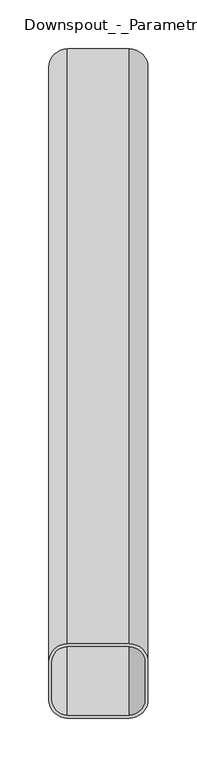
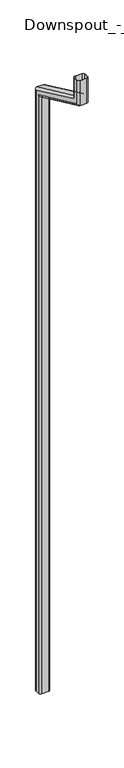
"""IFC4 building model written with IfcOpenShell, lengths in millimetres: proxy geometry, Downspout_-_Parametric_5251 : 20'."""

from ifc_helpers import new_model, si_unit, frame, origin, origin_with_axes, place, context, project, spatial, polyline, circle_curve, ellipse_curve, source, transform, mapped, element, save
from ifc_brep_helpers import plane_surface, cylinder_surface, revolved_surface, advanced_brep


def downspout_parametric_5251_20_f7a235c1(model_context):
    return source(origin(), model_context, "Body", "AdvancedBrep", [
        advanced_brep(
        [(50.8, 19.05, 0.0), (31.75, 38.1, 0.0), (-31.75, 38.1, 0.0), (-50.8, 19.05, 0.0), (-50.8, -19.05, 0.0), (-31.75, -38.1, 0.0), (31.75, -38.1, 0.0), (50.8, -19.05, 0.0), (47.625, 19.05, 0.0), (47.625, -19.05, 0.0), (31.75, -34.925, 0.0), (-31.75, -34.925, 0.0), (-47.625, -19.05, 0.0), (-47.625, 19.05, 0.0), (-31.75, 34.925, 0.0), (31.75, 34.925, 0.0), (50.8, 19.05, -203.7391312), (31.75, 38.1, -191.6029427), (-31.75, 38.1, -191.6029427), (-50.8, 19.05, -203.7391312), (-50.8, 628.65, -488.0002796), (-50.8, 628.65, -6318.25), (-50.8, 590.55, -6318.25), (-50.8, 590.55, -512.2726565), (-50.8, -19.05, -228.0115081), (-31.75, -38.1, -240.1476966), (31.75, -38.1, -240.1476966), (50.8, -19.05, -228.0115081), (50.8, 590.55, -512.2726565), (50.8, 590.55, -6318.25), (50.8, 628.65, -6318.25), (50.8, 628.65, -488.0002796), (47.625, 19.05, -203.7391312), (47.625, 628.65, -488.0002796), (47.625, 628.65, -6318.25), (47.625, 590.55, -6318.25), (47.625, 590.55, -512.2726565), (47.625, -19.05, -228.0115081), (31.75, -34.925, -238.1249985), (-31.75, -34.925, -238.1249985), (-47.625, -19.05, -228.0115081), (-47.625, 590.55, -512.2726565), (-47.625, 590.55, -6318.25), (-47.625, 628.65, -6318.25), (-47.625, 628.65, -488.0002796), (-47.625, 19.05, -203.7391312), (-31.75, 34.925, -193.6256408), (31.75, 34.925, -193.6256408), (31.75, 647.7, -475.8640911), (-31.75, 647.7, -475.8640911), (-31.75, 571.5, -524.408845), (31.75, 571.5, -524.408845), (31.75, 574.675, -522.3861469), (-31.75, 574.675, -522.3861469), (-31.75, 644.525, -477.8867892), (31.75, 644.525, -477.8867892), (31.75, 571.5, -6318.25), (-31.75, 571.5, -6318.25), (-31.75, 647.7, -6318.25), (31.75, 647.7, -6318.25), (31.75, 644.525, -6318.25), (-31.75, 644.525, -6318.25), (-31.75, 574.675, -6318.25), (31.75, 574.675, -6318.25)],
        [
            (0, 1, circle_curve(frame((31.75, 19.05, 0.0), z_axis=(0.0, 0.0, 1.0), x_axis=(0.0, 1.0, 0.0)), 19.05)),
            (1, 2),
            (2, 3, circle_curve(frame((-31.75, 19.05, 0.0), z_axis=(0.0, 0.0, 1.0), x_axis=(0.0, 1.0, 0.0)), 19.05)),
            (3, 4),
            (4, 5, circle_curve(frame((-31.75, -19.05, 0.0), z_axis=(0.0, 0.0, 1.0), x_axis=(0.0, 1.0, 0.0)), 19.05)),
            (5, 6),
            (6, 7, circle_curve(frame((31.75, -19.05, 0.0), z_axis=(0.0, 0.0, 1.0), x_axis=(0.0, 1.0, 0.0)), 19.05)),
            (7, 0),
            (8, 9),
            (9, 10, circle_curve(frame((31.75, -19.05, 0.0), z_axis=(0.0, 0.0, -1.0), x_axis=(0.0, 1.0, 0.0)), 15.875)),
            (10, 11),
            (11, 12, circle_curve(frame((-31.75, -19.05, 0.0), z_axis=(0.0, 0.0, -1.0), x_axis=(0.0, 1.0, 0.0)), 15.875)),
            (12, 13),
            (13, 14, circle_curve(frame((-31.75, 19.05, 0.0), z_axis=(0.0, 0.0, -1.0), x_axis=(0.0, 1.0, 0.0)), 15.875)),
            (14, 15),
            (15, 8, circle_curve(frame((31.75, 19.05, 0.0), z_axis=(0.0, 0.0, -1.0), x_axis=(0.0, 1.0, 0.0)), 15.875)),
            (0, 16),
            (16, 17, ellipse_curve(frame((31.75, 19.05, -203.7391312), z_axis=(0.0, -0.5372996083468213, 0.8433914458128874), x_axis=(0.0, 0.8433914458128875, 0.5372996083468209)), 22.5873764, 19.05)),
            (17, 1),
            (17, 18),
            (18, 2),
            (18, 19, ellipse_curve(frame((-31.75, 19.05, -203.7391312), z_axis=(0.0, -0.5372996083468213, 0.8433914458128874), x_axis=(0.0, 0.8433914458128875, 0.5372996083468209)), 22.5873764, 19.05)),
            (19, 3),
            (19, 20),
            (20, 21),
            (21, 22),
            (22, 23),
            (23, 24),
            (24, 4),
            (24, 25, ellipse_curve(frame((-31.75, -19.05, -228.0115081), z_axis=(0.0, -0.5372996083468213, 0.8433914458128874), x_axis=(0.0, 0.8433914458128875, 0.5372996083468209)), 22.5873764, 19.05)),
            (25, 5),
            (25, 26),
            (26, 6),
            (26, 27, ellipse_curve(frame((31.75, -19.05, -228.0115081), z_axis=(0.0, -0.5372996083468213, 0.8433914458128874), x_axis=(0.0, 0.8433914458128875, 0.5372996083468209)), 22.5873764, 19.05)),
            (27, 7),
            (27, 28),
            (28, 29),
            (29, 30),
            (30, 31),
            (31, 16),
            (8, 32),
            (32, 33),
            (33, 34),
            (34, 35),
            (35, 36),
            (36, 37),
            (37, 9),
            (37, 38, ellipse_curve(frame((31.75, -19.05, -228.0115081), z_axis=(0.0, 0.5372996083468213, -0.8433914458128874), x_axis=(0.0, -0.8433914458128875, -0.5372996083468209)), 18.8228136, 15.875)),
            (38, 10),
            (38, 39),
            (39, 11),
            (39, 40, ellipse_curve(frame((-31.75, -19.05, -228.0115081), z_axis=(0.0, 0.5372996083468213, -0.8433914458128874), x_axis=(0.0, -0.8433914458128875, -0.5372996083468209)), 18.8228136, 15.875)),
            (40, 12),
            (40, 41),
            (41, 42),
            (42, 43),
            (43, 44),
            (44, 45),
            (45, 13),
            (45, 46, ellipse_curve(frame((-31.75, 19.05, -203.7391312), z_axis=(0.0, 0.5372996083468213, -0.8433914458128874), x_axis=(0.0, -0.8433914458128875, -0.5372996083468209)), 18.8228136, 15.875)),
            (46, 14),
            (46, 47),
            (47, 15),
            (47, 32, ellipse_curve(frame((31.75, 19.05, -203.7391312), z_axis=(0.0, 0.5372996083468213, -0.8433914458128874), x_axis=(0.0, -0.8433914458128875, -0.5372996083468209)), 18.8228136, 15.875)),
            (31, 48, ellipse_curve(frame((31.75, 628.65, -488.0002796), z_axis=(0.0, -0.5372996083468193, 0.8433914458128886), x_axis=(0.0, -0.8433914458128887, -0.5372996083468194)), 22.5873764, 19.05)),
            (48, 17),
            (48, 49),
            (49, 18),
            (49, 20, ellipse_curve(frame((-31.75, 628.65, -488.0002796), z_axis=(0.0, -0.5372996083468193, 0.8433914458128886), x_axis=(0.0, -0.8433914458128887, -0.5372996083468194)), 22.5873764, 19.05)),
            (23, 50, ellipse_curve(frame((-31.75, 590.55, -512.2726565), z_axis=(0.0, -0.5372996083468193, 0.8433914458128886), x_axis=(0.0, -0.8433914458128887, -0.5372996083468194)), 22.5873764, 19.05)),
            (50, 25),
            (50, 51),
            (51, 26),
            (51, 28, ellipse_curve(frame((31.75, 590.55, -512.2726565), z_axis=(0.0, -0.5372996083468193, 0.8433914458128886), x_axis=(0.0, -0.8433914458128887, -0.5372996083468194)), 22.5873764, 19.05)),
            (36, 52, ellipse_curve(frame((31.75, 590.55, -512.2726565), z_axis=(0.0, 0.5372996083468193, -0.8433914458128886), x_axis=(0.0, 0.8433914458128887, 0.5372996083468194)), 18.8228136, 15.875)),
            (52, 38),
            (52, 53),
            (53, 39),
            (53, 41, ellipse_curve(frame((-31.75, 590.55, -512.2726565), z_axis=(0.0, 0.5372996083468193, -0.8433914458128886), x_axis=(0.0, 0.8433914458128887, 0.5372996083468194)), 18.8228136, 15.875)),
            (44, 54, ellipse_curve(frame((-31.75, 628.65, -488.0002796), z_axis=(0.0, 0.5372996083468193, -0.8433914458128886), x_axis=(0.0, 0.8433914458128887, 0.5372996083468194)), 18.8228136, 15.875)),
            (54, 46),
            (54, 55),
            (55, 47),
            (55, 33, ellipse_curve(frame((31.75, 628.65, -488.0002796), z_axis=(0.0, 0.5372996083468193, -0.8433914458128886), x_axis=(0.0, 0.8433914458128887, 0.5372996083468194)), 18.8228136, 15.875)),
            (29, 56, circle_curve(frame((31.75, 590.55, -6318.25), z_axis=(0.0, 0.0, -1.0), x_axis=(0.0, 1.0, 0.0)), 19.05)),
            (56, 57),
            (57, 22, circle_curve(frame((-31.75, 590.55, -6318.25), z_axis=(0.0, 0.0, -1.0), x_axis=(0.0, 1.0, 0.0)), 19.05)),
            (21, 58, circle_curve(frame((-31.75, 628.65, -6318.25), z_axis=(0.0, 0.0, -1.0), x_axis=(0.0, 1.0, 0.0)), 19.05)),
            (58, 59),
            (59, 30, circle_curve(frame((31.75, 628.65, -6318.25), z_axis=(0.0, 0.0, -1.0), x_axis=(0.0, 1.0, 0.0)), 19.05)),
            (34, 60, circle_curve(frame((31.75, 628.65, -6318.25), z_axis=(0.0, 0.0, 1.0), x_axis=(0.0, 1.0, 0.0)), 15.875)),
            (60, 61),
            (61, 43, circle_curve(frame((-31.75, 628.65, -6318.25), z_axis=(0.0, 0.0, 1.0), x_axis=(0.0, 1.0, 0.0)), 15.875)),
            (42, 62, circle_curve(frame((-31.75, 590.55, -6318.25), z_axis=(0.0, 0.0, 1.0), x_axis=(0.0, 1.0, 0.0)), 15.875)),
            (62, 63),
            (63, 35, circle_curve(frame((31.75, 590.55, -6318.25), z_axis=(0.0, 0.0, 1.0), x_axis=(0.0, 1.0, 0.0)), 15.875)),
            (59, 48),
            (58, 49),
            (57, 50),
            (56, 51),
            (63, 52),
            (62, 53),
            (61, 54),
            (60, 55),
        ],
        [
            plane_surface(origin_with_axes()),
            cylinder_surface(frame((31.75, 19.05, 0.0), z_axis=(0.0, 0.0, 1.0), x_axis=(0.0, 1.0, 0.0)), 19.05),
            plane_surface(frame((31.75, 38.1, 0.0), z_axis=(0.0, 1.0, 0.0), x_axis=(0.0, 0.0, -1.0))),
            cylinder_surface(frame((-31.75, 19.05, 0.0), z_axis=(0.0, 0.0, 1.0), x_axis=(0.0, 1.0, 0.0)), 19.05),
            plane_surface(frame((-50.8, 19.05, 0.0), z_axis=(-1.0, 0.0, 0.0), x_axis=(0.0, 0.0, -1.0))),
            cylinder_surface(frame((-31.75, -19.05, 0.0), z_axis=(0.0, 0.0, 1.0), x_axis=(0.0, 1.0, 0.0)), 19.05),
            plane_surface(frame((-31.75, -38.1, 0.0), z_axis=(0.0, -1.0, 0.0), x_axis=(0.0, 0.0, -1.0))),
            cylinder_surface(frame((31.75, -19.05, 0.0), z_axis=(0.0, 0.0, 1.0), x_axis=(0.0, 1.0, 0.0)), 19.05),
            plane_surface(frame((50.8, -19.05, 0.0), z_axis=(1.0, 0.0, 0.0), x_axis=(0.0, 0.0, -1.0))),
            plane_surface(frame((47.625, 19.05, 0.0), z_axis=(-1.0, 0.0, 0.0), x_axis=(0.0, 0.0, -1.0))),
            revolved_surface(polyline([(31.75, -3.1750000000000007, -238.1249985), (31.75, -3.1750000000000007, 0.0)]), (31.75, -19.05, 0.0), (0.0, 0.0, -1.0)),
            plane_surface(frame((31.75, -34.925, 0.0), z_axis=(0.0, 1.0, 0.0), x_axis=(0.0, 0.0, -1.0))),
            revolved_surface(polyline([(-31.75, -3.1750000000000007, -238.1249985), (-31.75, -3.1750000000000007, 0.0)]), (-31.75, -19.05, 0.0), (0.0, 0.0, -1.0)),
            plane_surface(frame((-47.625, -19.05, 0.0), z_axis=(1.0, 0.0, 0.0), x_axis=(0.0, 0.0, -1.0))),
            revolved_surface(polyline([(-31.75, 34.925, -213.8526215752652), (-31.75, 34.925, 0.0)]), (-31.75, 19.05, 0.0), (0.0, 0.0, -1.0)),
            plane_surface(frame((-31.75, 34.925, 0.0), z_axis=(0.0, -1.0, 0.0), x_axis=(0.0, 0.0, -1.0))),
            revolved_surface(polyline([(31.75, 34.925, -213.8526215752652), (31.75, 34.925, 0.0)]), (31.75, 19.05, 0.0), (0.0, 0.0, -1.0)),
            cylinder_surface(frame((31.75, 8.0508779, -198.6101563), z_axis=(0.0, -0.9063077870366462, 0.42261826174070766), x_axis=(0.0, 0.42261826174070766, 0.9063077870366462)), 19.05),
            plane_surface(frame((31.75, 38.1, -191.6029427), z_axis=(0.0, 0.42261826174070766, 0.9063077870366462), x_axis=(0.0, 0.9063077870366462, -0.42261826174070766))),
            cylinder_surface(frame((-31.75, 8.0508779, -198.6101563), z_axis=(0.0, -0.9063077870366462, 0.42261826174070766), x_axis=(0.0, 0.42261826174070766, 0.9063077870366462)), 19.05),
            cylinder_surface(frame((-31.75, -8.0508779, -233.140483), z_axis=(0.0, -0.9063077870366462, 0.42261826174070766), x_axis=(0.0, 0.42261826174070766, 0.9063077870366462)), 19.05),
            plane_surface(frame((-31.75, -38.1, -240.1476966), z_axis=(0.0, -0.4226182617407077, -0.9063077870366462), x_axis=(0.0, 0.9063077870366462, -0.4226182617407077))),
            cylinder_surface(frame((31.75, -8.0508779, -233.140483), z_axis=(0.0, -0.9063077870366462, 0.42261826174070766), x_axis=(0.0, 0.42261826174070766, 0.9063077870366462)), 19.05),
            revolved_surface(polyline([(31.75, 606.4249999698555, -502.15916613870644), (31.75, -21.506870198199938, -209.3497262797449)]), (31.75, -8.0508779, -233.140483), (0.0, 0.9063077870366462, -0.42261826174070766)),
            plane_surface(frame((31.75, -34.925, -238.1249985), z_axis=(0.0, 0.4226182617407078, 0.9063077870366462), x_axis=(0.0, 0.9063077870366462, -0.4226182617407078))),
            revolved_surface(polyline([(-31.75, 606.4249999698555, -502.15916613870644), (-31.75, -21.506870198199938, -209.3497262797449)]), (-31.75, -8.0508779, -233.140483), (0.0, 0.9063077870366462, -0.42261826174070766)),
            revolved_surface(polyline([(-31.75, 644.5250000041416, -477.8867891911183), (-31.75, 16.593129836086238, -185.07734933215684)]), (-31.75, 8.0508779, -198.6101563), (0.0, 0.9063077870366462, -0.42261826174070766)),
            plane_surface(frame((-31.75, 34.925, -193.6256408), z_axis=(0.0, -0.42261826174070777, -0.9063077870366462), x_axis=(0.0, 0.9063077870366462, -0.42261826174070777))),
            revolved_surface(polyline([(31.75, 644.5250000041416, -477.8867891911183), (31.75, 16.593129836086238, -185.07734933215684)]), (31.75, 8.0508779, -198.6101563), (0.0, 0.9063077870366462, -0.42261826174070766)),
            plane_surface(frame((0.0, 609.6, -6318.25), z_axis=(0.0, 0.0, -1.0), x_axis=(1.0, 0.0, 0.0))),
            cylinder_surface(frame((31.75, 628.65, -500.1364681), z_axis=(0.0, 0.0, 1.0), x_axis=(0.0, 1.0, 0.0)), 19.05),
            plane_surface(frame((31.75, 647.7, -475.8640911), z_axis=(0.0, 1.0, 0.0), x_axis=(0.0, 0.0, -1.0))),
            cylinder_surface(frame((-31.75, 628.65, -500.1364681), z_axis=(0.0, 0.0, 1.0), x_axis=(0.0, 1.0, 0.0)), 19.05),
            cylinder_surface(frame((-31.75, 590.55, -500.1364681), z_axis=(0.0, 0.0, 1.0), x_axis=(0.0, 1.0, 0.0)), 19.05),
            plane_surface(frame((-31.75, 571.5, -524.408845), z_axis=(0.0, -1.0, 0.0), x_axis=(0.0, 0.0, -1.0))),
            cylinder_surface(frame((31.75, 590.55, -500.1364681), z_axis=(0.0, 0.0, 1.0), x_axis=(0.0, 1.0, 0.0)), 19.05),
            revolved_surface(polyline([(31.75, 606.425, -6318.25), (31.75, 606.425, -502.15916612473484)]), (31.75, 590.55, -500.1364681), (0.0, 0.0, -1.0)),
            plane_surface(frame((31.75, 574.675, -522.3861469), z_axis=(0.0, 1.0, 0.0), x_axis=(0.0, 0.0, -1.0))),
            revolved_surface(polyline([(-31.75, 606.425, -6318.25), (-31.75, 606.425, -502.15916612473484)]), (-31.75, 590.55, -500.1364681), (0.0, 0.0, -1.0)),
            revolved_surface(polyline([(-31.75, 644.525, -6318.25), (-31.75, 644.525, -477.8867892)]), (-31.75, 628.65, -500.1364681), (0.0, 0.0, -1.0)),
            plane_surface(frame((-31.75, 644.525, -477.8867892), z_axis=(0.0, -1.0, 0.0), x_axis=(0.0, 0.0, -1.0))),
            revolved_surface(polyline([(31.75, 644.525, -6318.25), (31.75, 644.525, -477.8867892)]), (31.75, 628.65, -500.1364681), (0.0, 0.0, -1.0)),
        ],
        [
            (0, [[1, 2, 3, 4, 5, 6, 7, 8], [9, 10, 11, 12, 13, 14, 15, 16]]),
            (1, [[-1, 17, 18, 19]]),
            (2, [[-2, -19, 20, 21]]),
            (3, [[-3, -21, 22, 23]]),
            (4, [[-4, -23, 24, 25, 26, 27, 28, 29]]),
            (5, [[-5, -29, 30, 31]]),
            (6, [[-6, -31, 32, 33]]),
            (7, [[-7, -33, 34, 35]]),
            (8, [[-8, -35, 36, 37, 38, 39, 40, -17]]),
            (9, [[-9, 41, 42, 43, 44, 45, 46, 47]]),
            (10, [[-10, -47, 48, 49]]),
            (11, [[-11, -49, 50, 51]]),
            (12, [[-12, -51, 52, 53]]),
            (13, [[-13, -53, 54, 55, 56, 57, 58, 59]]),
            (14, [[-14, -59, 60, 61]]),
            (15, [[-15, -61, 62, 63]]),
            (16, [[-16, -63, 64, -41]]),
            (17, [[-18, -40, 65, 66]]),
            (18, [[-20, -66, 67, 68]]),
            (19, [[-22, -68, 69, -24]]),
            (20, [[-30, -28, 70, 71]]),
            (21, [[-32, -71, 72, 73]]),
            (22, [[-34, -73, 74, -36]]),
            (23, [[-48, -46, 75, 76]]),
            (24, [[-50, -76, 77, 78]]),
            (25, [[-52, -78, 79, -54]]),
            (26, [[-60, -58, 80, 81]]),
            (27, [[-62, -81, 82, 83]]),
            (28, [[-64, -83, 84, -42]]),
            (29, [[-38, 85, 86, 87, -26, 88, 89, 90], [91, 92, 93, -56, 94, 95, 96, -44]]),
            (30, [[-65, -39, -90, 97]]),
            (31, [[-67, -97, -89, 98]]),
            (32, [[-69, -98, -88, -25]]),
            (33, [[-70, -27, -87, 99]]),
            (34, [[-72, -99, -86, 100]]),
            (35, [[-74, -100, -85, -37]]),
            (36, [[-75, -45, -96, 101]]),
            (37, [[-77, -101, -95, 102]]),
            (38, [[-79, -102, -94, -55]]),
            (39, [[-80, -57, -93, 103]]),
            (40, [[-82, -103, -92, 104]]),
            (41, [[-84, -104, -91, -43]]),
        ],
    ),
    ])


if __name__ == "__main__":
    model = new_model("IFC4")
    model_context = context("Model", 3, world=origin())
    ifc_project = project(units=[si_unit("LENGTHUNIT", "METRE", prefix="MILLI")], contexts=[model_context])
    site = spatial("IfcSite", under=ifc_project)
    building = spatial("IfcBuilding", under=site)
    placement = place(None, origin())
    downspout_parametric_5251_20_shape = downspout_parametric_5251_20_f7a235c1(model_context)
    element("IfcBuildingElementProxy", 1, Name="Downspout_-_Parametric_5251 : 20'", ObjectType="Downspout_-_Parametric_5251 : 20'", at=placement, inside=building, context=model_context, shape_type="MappedRepresentation", body=[
        mapped(downspout_parametric_5251_20_shape, transform((0.0, 0.0, 0.0), x_axis=(1.0, 0.0, 0.0), y_axis=(0.0, 1.0, 0.0), z_axis=(0.0, 0.0, 1.0))),
    ])
    save(model, "model.ifc")
